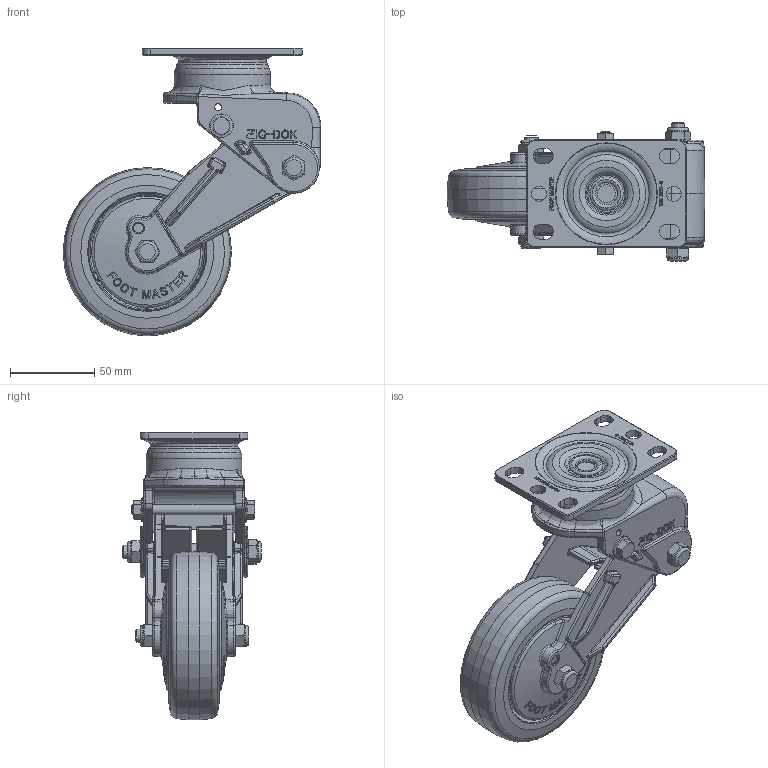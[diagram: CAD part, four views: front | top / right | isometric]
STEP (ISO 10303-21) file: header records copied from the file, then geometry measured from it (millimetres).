
FILE_DESCRIPTION(/* description */ (''),/* implementation_level */ '2;1');
FILE_NAME(/* name */ 'Z:\1.기술연구소\2.연구개발 진행중\25.충격흡수식_BBB\JYH\GDS-100-BB\2020년도\3.도면\1.3D\STEP-FILE\홈페이지용 3D_전달용\GDSB-100-ARF-LUD_PUS.stp',/* time_stamp */ '2021-10-08T20:31:40+09:00',/* author */ ('admin'),/* organization */ (''),/* preprocessor_version */ 'ST-DEVELOPER v18.1',/* originating_system */ 'Autodesk Inventor 2021',/* authorisation */ '');
FILE_SCHEMA (('AUTOMOTIVE_DESIGN { 1 0 10303 214 3 1 1 }'));
Length unit declared in the file: millimetre
Products named in the file (1): GDSB-100-ARF-LUD_PUS
Bounding box: 153.11 x 82 x 171 mm (x, y, z)
Volume: 363500.9 mm3; surface area: 117013.7 mm2
Topology: 1 solids, 2 shells, 2661 faces, 6677 edges, 4076 vertices
Faces by surface type: bspline 1008, plane 876, cylinder 388, cone 192, torus 169, sphere 28
Full cylindrical faces by diameter (mm): 4.2 x2, 6 x2, 6.2 x2, 7.4 x1, 7.95 x5, 8.2 x2, 9 x2, 9.95 x1, 10.2 x4, 10.7 x1, 11.6 x2, 12.5 x4, 14 x2, 20 x2, 22.347 x2, 39 x1, 47.452 x1, 52 x1, 57 x1, 100 x1
Entity records: 105641 total; most frequent: CARTESIAN_POINT 44647, ORIENTED_EDGE 13210, DIRECTION 10571, EDGE_CURVE 6605, VERTEX_POINT 4076, AXIS2_PLACEMENT_3D 4039, EDGE_LOOP 2819, FACE_OUTER_BOUND 2661
